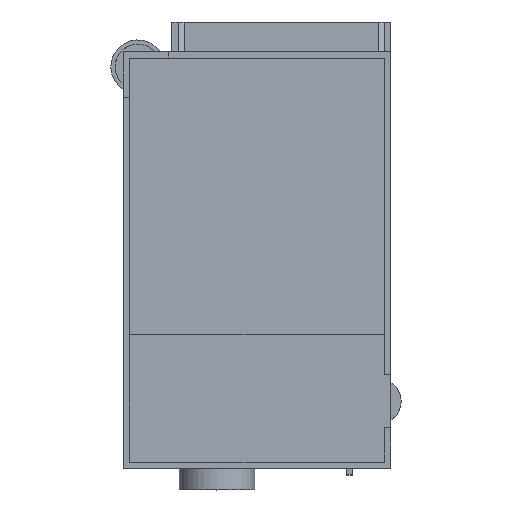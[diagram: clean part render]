
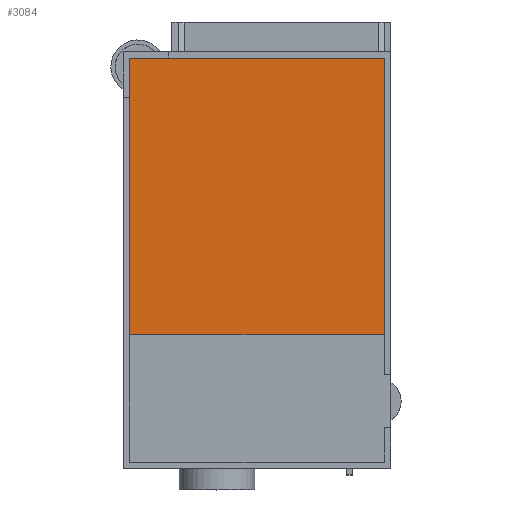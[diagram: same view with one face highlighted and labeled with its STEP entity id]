
A CAD part, top view. The second image highlights one B-rep face of the part: STEP entity #3084.
In plain terms, the highlighted planar face has unit normal (0, 0, 1).
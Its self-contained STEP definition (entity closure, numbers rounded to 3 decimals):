
#1079=DIRECTION('',(1.,0.,0.));
#1080=VECTOR('',#1079,59.8);
#1081=CARTESIAN_POINT('',(1.5,31.5,-9.5));
#1082=LINE('',#1081,#1080);
#1083=DIRECTION('',(0.,1.,0.));
#1084=VECTOR('',#1083,64.8);
#1085=CARTESIAN_POINT('',(1.5,31.5,-9.5));
#1086=LINE('',#1085,#1084);
#1087=DIRECTION('',(1.,0.,0.));
#1088=VECTOR('',#1087,59.8);
#1089=CARTESIAN_POINT('',(1.5,96.3,-9.5));
#1090=LINE('',#1089,#1088);
#1091=DIRECTION('',(0.,-1.,0.));
#1092=VECTOR('',#1091,64.8);
#1093=CARTESIAN_POINT('',(61.3,96.3,-9.5));
#1094=LINE('',#1093,#1092);
#1443=CARTESIAN_POINT('',(1.5,96.3,-9.5));
#1444=CARTESIAN_POINT('',(61.3,96.3,-9.5));
#1445=VERTEX_POINT('',#1443);
#1446=VERTEX_POINT('',#1444);
#1467=CARTESIAN_POINT('',(1.5,31.5,-9.5));
#1468=CARTESIAN_POINT('',(61.3,31.5,-9.5));
#1469=VERTEX_POINT('',#1467);
#1470=VERTEX_POINT('',#1468);
#3072=CARTESIAN_POINT('',(0.,0.,-9.5));
#3073=DIRECTION('',(0.,0.,1.));
#3074=DIRECTION('',(1.,0.,0.));
#3075=AXIS2_PLACEMENT_3D('',#3072,#3073,#3074);
#3076=PLANE('',#3075);
#3078=ORIENTED_EDGE('',*,*,#3077,.F.);
#3079=ORIENTED_EDGE('',*,*,#1780,.T.);
#3080=ORIENTED_EDGE('',*,*,#3054,.T.);
#3081=ORIENTED_EDGE('',*,*,#1624,.T.);
#3082=EDGE_LOOP('',(#3078,#3079,#3080,#3081));
#3083=FACE_OUTER_BOUND('',#3082,.F.);
#3084=ADVANCED_FACE('',(#3083),#3076,.T.);
#1624=EDGE_CURVE('',#1446,#1470,#1094,.T.);
#1780=EDGE_CURVE('',#1469,#1445,#1086,.T.);
#3054=EDGE_CURVE('',#1445,#1446,#1090,.T.);
#3077=EDGE_CURVE('',#1469,#1470,#1082,.T.);
